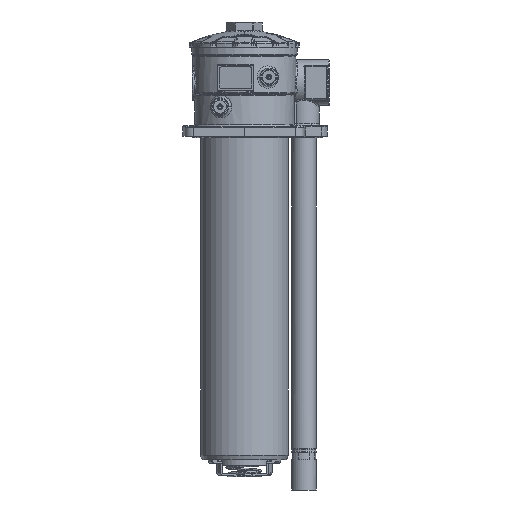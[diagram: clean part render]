
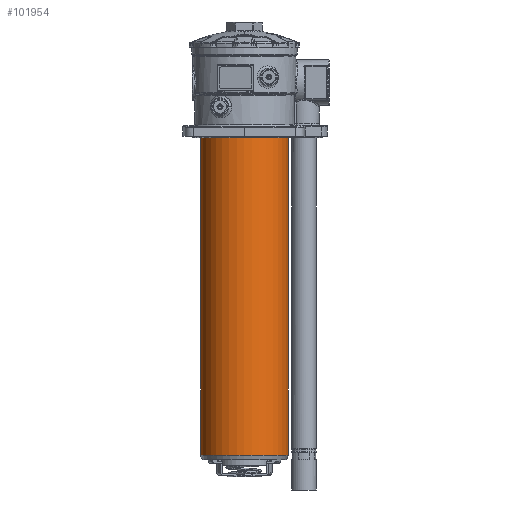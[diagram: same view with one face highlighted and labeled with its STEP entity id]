
A CAD part, left-side view. The second image highlights one B-rep face of the part: STEP entity #101954.
In plain terms, the highlighted cylindrical face has radius 50.25 mm (diameter 100.5 mm), a partial arc.
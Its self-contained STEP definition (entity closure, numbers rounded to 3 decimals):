
#17150=CARTESIAN_POINT('',(0.,0.,0.));
#17151=DIRECTION('',(0.,0.,-1.));
#17152=DIRECTION('',(0.,-1.,0.));
#17153=AXIS2_PLACEMENT_3D('',#17150,#17151,#17152);
#45275=DIRECTION('',(0.,0.,-1.));
#45276=VECTOR('',#45275,365.1);
#45277=CARTESIAN_POINT('',(0.,50.25,0.));
#45278=LINE('',#45277,#45276);
#45282=DIRECTION('',(0.,0.,-1.));
#45283=VECTOR('',#45282,365.1);
#45284=CARTESIAN_POINT('',(0.,-50.25,0.));
#45285=LINE('',#45284,#45283);
#45447=CARTESIAN_POINT('',(0.,0.,-365.1));
#45448=DIRECTION('',(0.,0.,1.));
#45449=DIRECTION('',(0.,1.,0.));
#45450=AXIS2_PLACEMENT_3D('',#45447,#45448,#45449);
#53747=CARTESIAN_POINT('',(0.,-50.25,-365.1));
#53749=VERTEX_POINT('',#53747);
#53751=CARTESIAN_POINT('',(0.,50.25,-365.1));
#53753=VERTEX_POINT('',#53751);
#53779=CARTESIAN_POINT('',(0.,-50.25,0.));
#53780=CARTESIAN_POINT('',(0.,50.25,0.));
#53781=VERTEX_POINT('',#53779);
#53782=VERTEX_POINT('',#53780);
#101940=CARTESIAN_POINT('',(0.,0.,
-183.037));
#101941=DIRECTION('',(0.,0.,-1.));
#101942=DIRECTION('',(0.,-1.,0.));
#101943=AXIS2_PLACEMENT_3D('',#101940,#101941,#101942);
#101944=CYLINDRICAL_SURFACE('',#101943,50.25);
#101945=ORIENTED_EDGE('',*,*,#72561,.F.);
#101947=ORIENTED_EDGE('',*,*,#101946,.T.);
#101949=ORIENTED_EDGE('',*,*,#101948,.F.);
#101951=ORIENTED_EDGE('',*,*,#101950,.F.);
#101952=EDGE_LOOP('',(#101945,#101947,#101949,#101951));
#101953=FACE_OUTER_BOUND('',#101952,.F.);
#17154=CIRCLE('',#17153,50.25);
#45451=CIRCLE('',#45450,50.25);
#72561=EDGE_CURVE('',#53781,#53782,#17154,.T.);
#101946=EDGE_CURVE('',#53781,#53749,#45285,.T.);
#101948=EDGE_CURVE('',#53753,#53749,#45451,.T.);
#101950=EDGE_CURVE('',#53782,#53753,#45278,.T.);
#101954=ADVANCED_FACE('',(#101953),#101944,.T.);
